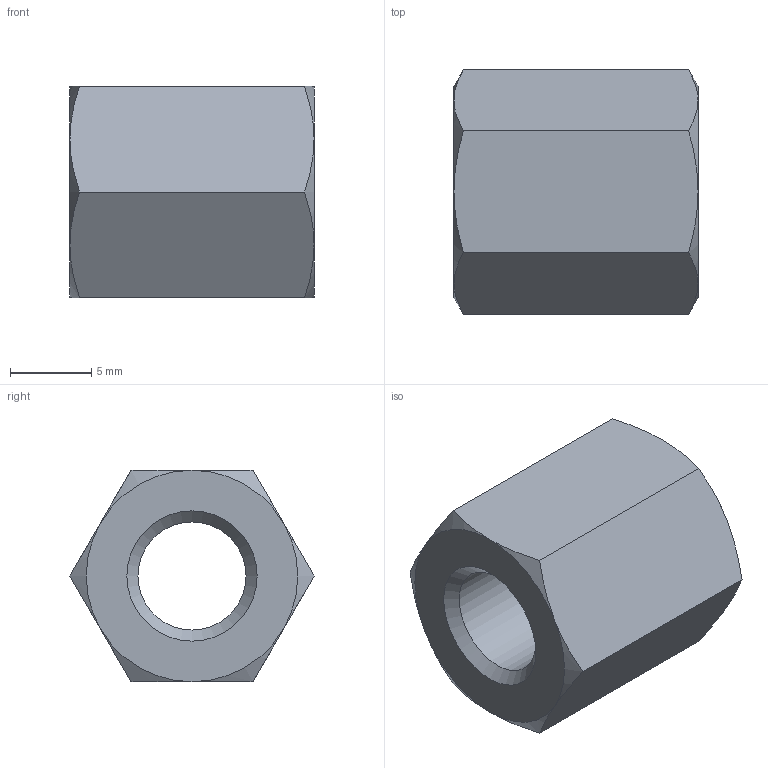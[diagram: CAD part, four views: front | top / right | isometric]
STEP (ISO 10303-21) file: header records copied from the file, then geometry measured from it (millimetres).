
FILE_DESCRIPTION( ( 'STEP AP203' ), '1' );
FILE_NAME( 'C:/Temp/Ganter_Step_05_03_2020/data/3_2/gn6220/gn6220_st/Spacer GN 6220-ST-M8-15-A.stp', '2020-03-13T05:42:32', ( 'License CC BY-ND 4.0' ), ( 'CADENAS' ), ' ', 'PARTsolutions', ' ' );
FILE_SCHEMA( ( 'CONFIG_CONTROL_DESIGN' ) );
Length unit declared in the file: millimetre
Products named in the file (1): _Spacer GN 6220-ST-M8-15-A
Bounding box: 15 x 15.01 x 13 mm (x, y, z)
Volume: 1659.9 mm3; surface area: 1183 mm2
Topology: 1 solids, 1 shells, 23 faces, 49 edges, 28 vertices
Faces by surface type: cone 14, plane 8, cylinder 1
Full cylindrical faces by diameter (mm): 6.647 x1
Entity records: 728 total; most frequent: CARTESIAN_POINT 234, ORIENTED_EDGE 92, DIRECTION 86, EDGE_CURVE 46, AXIS2_PLACEMENT_3D 40, EDGE_LOOP 28, VERTEX_POINT 28, FACE_OUTER_BOUND 24
